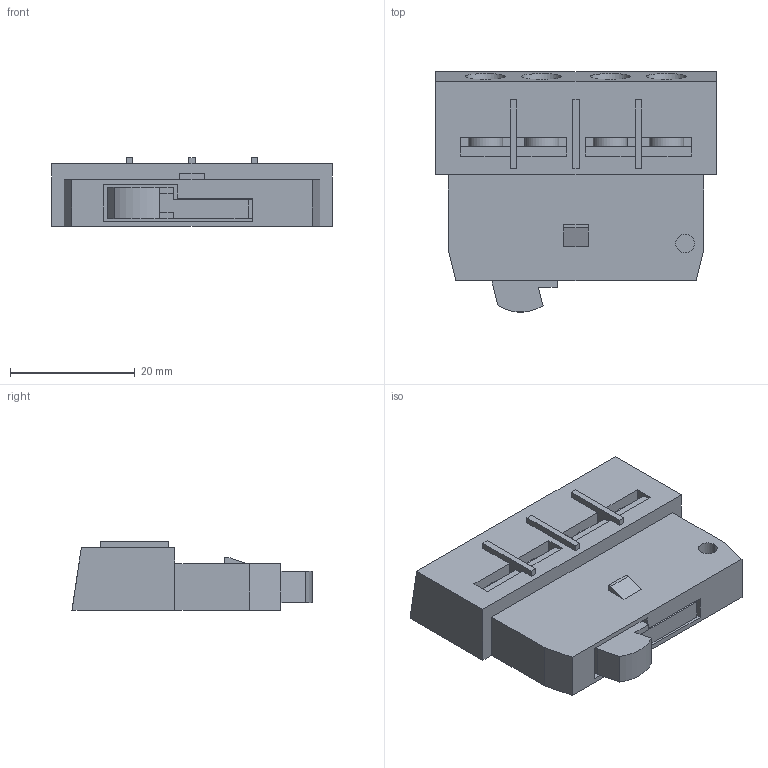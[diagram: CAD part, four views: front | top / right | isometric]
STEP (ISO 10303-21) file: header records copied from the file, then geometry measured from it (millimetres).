
FILE_DESCRIPTION (( 'STEP AP214' ), '1' );
FILE_NAME ('OMRON-J73MN_11F.step', '2011-05-04T07:57:00', ( 'SysAdmin' ), ( 'SolidWorks' ), 'SwSTEP 2.0', 'SolidWorks 2011', '' );
FILE_SCHEMA (( 'AUTOMOTIVE_DESIGN' ));
Length unit declared in the file: millimetre
Products named in the file (3): OMRON-J73MN_11F; OMRON-J73MN_11F_J73MN_11F_BASE; OMRON-J73MN_11F_J73MN_11F_LEVER
Assembly tree (2 placements, depth 2):
  OMRON-J73MN_11F
    OMRON-J73MN_11F_J73MN_11F_BASE
    OMRON-J73MN_11F_J73MN_11F_LEVER
Bounding box: 45 x 38.48 x 11 mm (x, y, z)
Volume: 9508.5 mm3; surface area: 7469.9 mm2
Topology: 2 solids, 2 shells, 119 faces, 310 edges, 204 vertices
Faces by surface type: plane 94, cylinder 25
Entity records: 3960 total; most frequent: CARTESIAN_POINT 662, ORIENTED_EDGE 620, DIRECTION 596, EDGE_CURVE 310, LINE 256, VECTOR 256, VERTEX_POINT 204, AXIS2_PLACEMENT_3D 170
